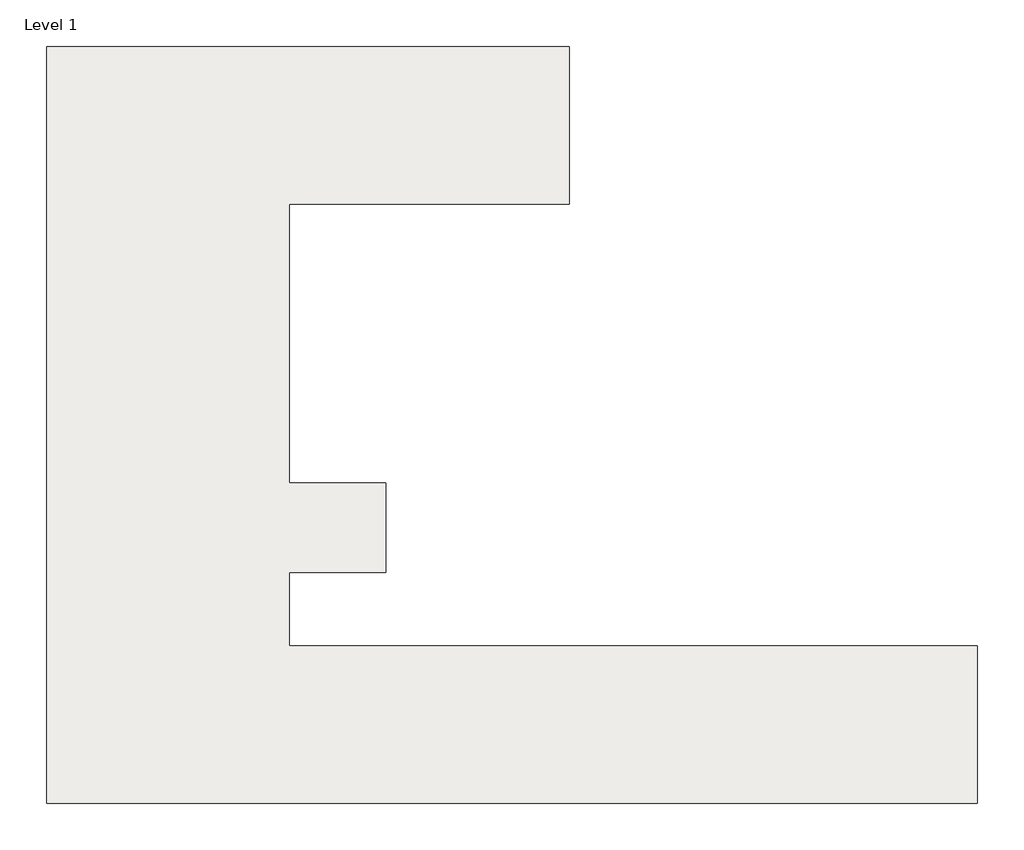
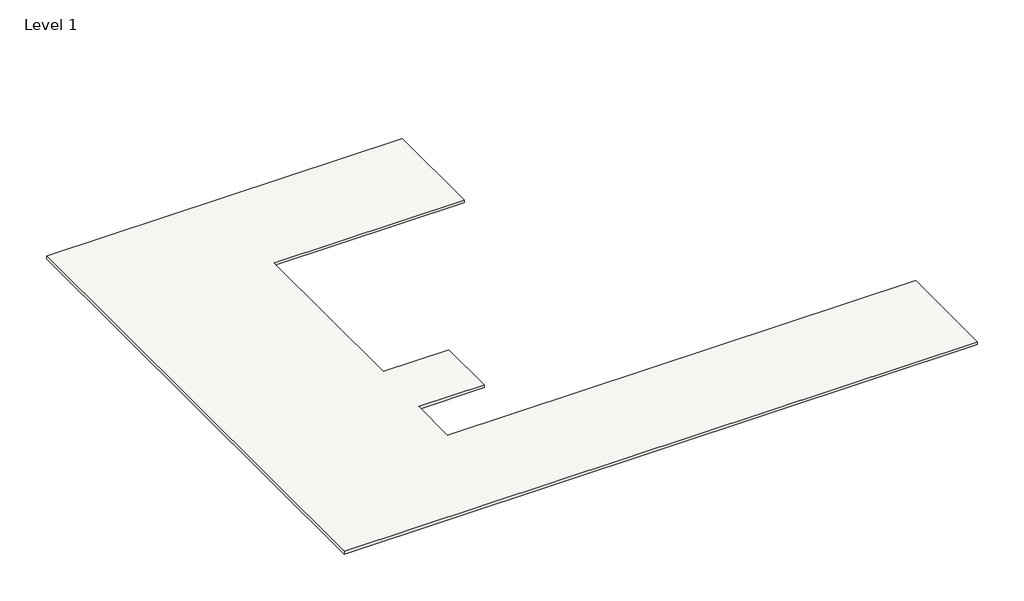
# One storey, incomplete: 1 slab.
"""IFC4 building model written with IfcOpenShell, lengths in millimetres."""

from ifc_helpers import new_model, si_unit, frame, origin, place, context, project, spatial, polyline, outline, extrude, element, save

model = new_model("IFC4")

# Units and contexts
model_context = context("Model", 3, world=origin())
ifc_project = project(units=[si_unit("LENGTHUNIT", "METRE", prefix="MILLI")], contexts=[model_context])

# Site, building, storey
site = spatial("IfcSite", under=ifc_project)
building = spatial("IfcBuilding", under=site)
storey = spatial("IfcBuildingStorey", under=building, Name="Level 1", Elevation=0.0)

# Slab
placement = place(None, origin())
element("IfcSlab", 1, ObjectType="Pad 1", at=placement, inside=storey, context=model_context, shape_type="SweptSolid", body=[
    extrude(outline(polyline([(-27.6542524, -254.075), (-27.6542524, 53822.1271377), (37284.5450966, 53822.1271377), (37284.5450966, 42544.9255874), (17320.1462593, 42544.9255874), (17320.1462593, 22643.6255874), (24184.735392, 22643.6255874), (24184.735392, 16243.2251998), (17320.1462593, 16243.2251998), (17320.1462593, 10997.7248122), (66445.223301, 10997.7248122), (66445.223301, -254.075), (-27.6542524, -254.075)])), frame((0.0, 0.0, -300.0), z_axis=(0.0, 0.0, 1.0), x_axis=(1.0, 0.0, 0.0)), (0.0, 0.0, 1.0), 300.0),
])

save(model, "model.ifc")
